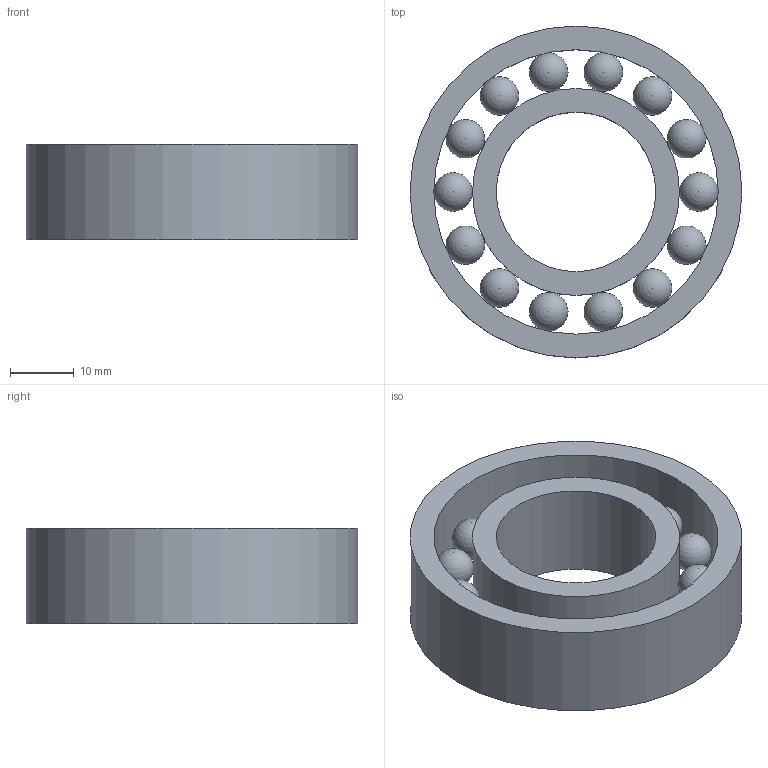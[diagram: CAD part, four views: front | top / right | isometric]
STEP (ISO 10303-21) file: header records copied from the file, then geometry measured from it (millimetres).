
FILE_DESCRIPTION(('Open CASCADE Model'),'2;1');
FILE_NAME('Open CASCADE Shape Model','2026-09-15T22:58:06',('Author'),( 'Open CASCADE'),'Open CASCADE STEP processor 7.9','build123d', 'Unknown');
FILE_SCHEMA(('AUTOMOTIVE_DESIGN { 1 0 10303 214 1 1 1 1 }'));
Length unit declared in the file: millimetre
Products named in the file (1): COMPOUND
Bounding box: 52 x 52 x 15 mm (x, y, z)
Volume: 15114.4 mm3; surface area: 10676.4 mm2
Topology: 16 solids, 16 shells, 22 faces, 55 edges, 37 vertices
Faces by surface type: sphere 14, cylinder 4, plane 4
Full cylindrical faces by diameter (mm): 25 x1, 32.425 x1, 44.575 x1, 52 x1
Entity records: 546 total; most frequent: DIRECTION 93, CARTESIAN_POINT 85, AXIS2_PLACEMENT_3D 31, FACE_BOUND 26, ORIENTED_EDGE 26, PCURVE 26, DEFINITIONAL_REPRESENTATION 26, VERTEX_POINT 23
